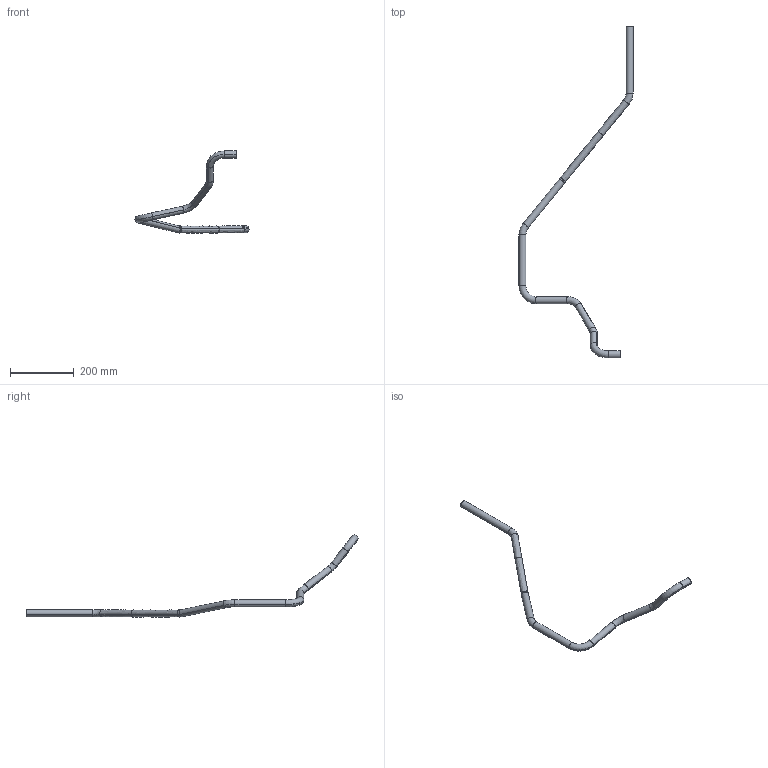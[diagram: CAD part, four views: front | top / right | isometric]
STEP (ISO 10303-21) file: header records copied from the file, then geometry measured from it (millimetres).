
FILE_DESCRIPTION(('CATIA V5 STEP Exchange','CAx-IF Rec.Pracs.--- Model Styling and Organization---1.2---2011-12-15'),'2;1');
FILE_NAME('c:\aplikace\smarteam\Temp\DO584731.step','2016-07-11T09:08:33+00:00',('none'),('none'),'CATIA Version 5 Release 21 SP 6 (IN-10)','CATIA V5 STEP AP214','none');
FILE_SCHEMA(('AUTOMOTIVE_DESIGN { 1 0 10303 214 1 1 1 1 }'));
Length unit declared in the file: millimetre
Products named in the file (1): DO584731, TRUBKA R2T5
Bounding box: 356.99 x 1039 x 256.75 mm (x, y, z)
Volume: 139021.9 mm3; surface area: 185290 mm2
Topology: 1 solids, 1 shells, 66 faces, 132 edges, 68 vertices
Faces by surface type: cylinder 28, torus 28, bspline 8, plane 2
Entity records: 1929 total; most frequent: CARTESIAN_POINT 767, ORIENTED_EDGE 264, DIRECTION 176, EDGE_CURVE 132, AXIS2_PLACEMENT_3D 119, CIRCLE 88, EDGE_LOOP 68, VERTEX_POINT 68
